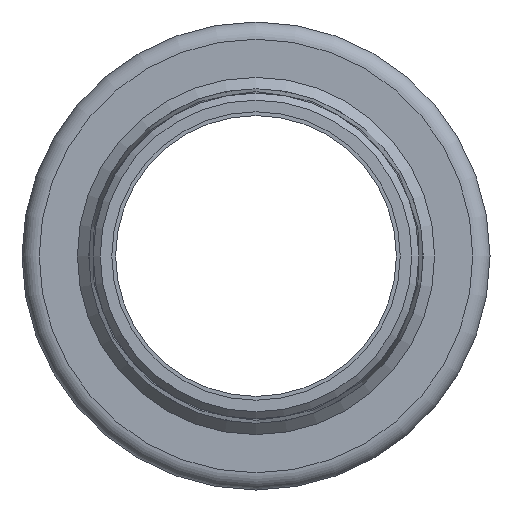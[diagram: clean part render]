
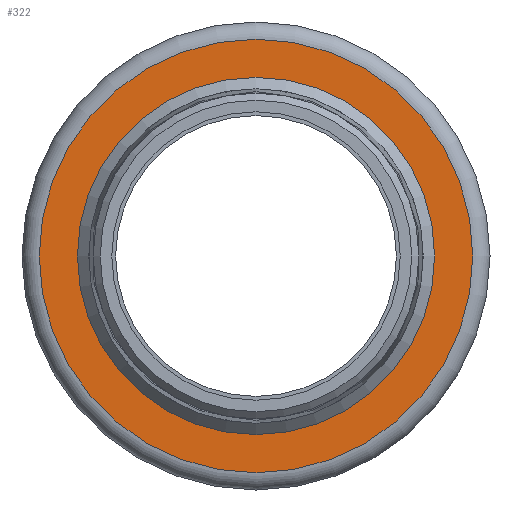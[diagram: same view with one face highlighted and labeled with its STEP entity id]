
A CAD part, front view. The second image highlights one B-rep face of the part: STEP entity #322.
In plain terms, the highlighted planar face has unit normal (0, -1, 0).
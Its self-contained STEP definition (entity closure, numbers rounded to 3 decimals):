
#84=ORIENTED_EDGE('',*,*,#105,.F.);
#85=ORIENTED_EDGE('',*,*,#111,.T.);
#105=EDGE_CURVE('',#126,#126,#147,.T.);
#111=EDGE_CURVE('',#132,#132,#153,.T.);
#126=VERTEX_POINT('',#521);
#132=VERTEX_POINT('',#538);
#147=CIRCLE('',#369,25.95);
#153=CIRCLE('',#380,31.5);
#189=EDGE_LOOP('',(#84));
#190=EDGE_LOOP('',(#85));
#231=FACE_BOUND('',#189,.T.);
#232=FACE_BOUND('',#190,.T.);
#245=PLANE('',#379);
#322=ADVANCED_FACE('',(#231,#232),#245,.T.);
#369=AXIS2_PLACEMENT_3D('',#520,#444,#445);
#379=AXIS2_PLACEMENT_3D('',#536,#464,#465);
#380=AXIS2_PLACEMENT_3D('',#537,#466,#467);
#444=DIRECTION('',(0.,-1.,0.));
#445=DIRECTION('',(0.,0.,-1.));
#464=DIRECTION('',(0.,-1.,0.));
#465=DIRECTION('',(0.,0.,-1.));
#466=DIRECTION('',(0.,-1.,0.));
#467=DIRECTION('',(0.,0.,-1.));
#520=CARTESIAN_POINT('',(0.,0.,0.));
#521=CARTESIAN_POINT('',(0.,0.,-25.95));
#536=CARTESIAN_POINT('',(0.,0.,24.15));
#537=CARTESIAN_POINT('',(0.,0.,0.));
#538=CARTESIAN_POINT('',(0.,0.,-31.5));
